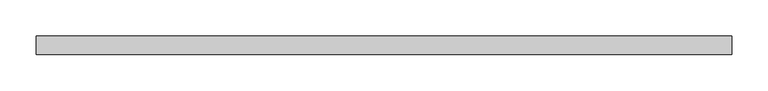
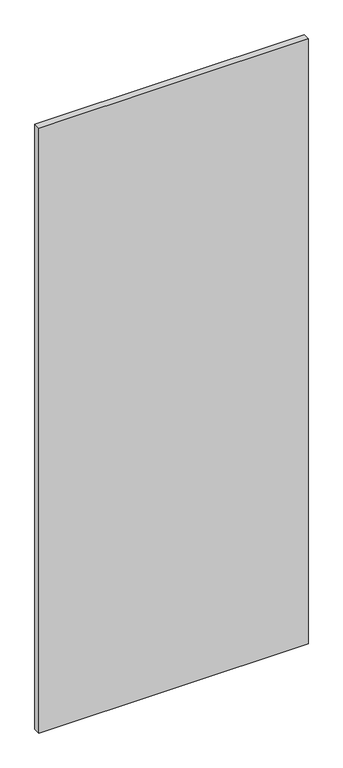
"""IFC4 building model written with IfcOpenShell, lengths in millimetres: plate geometry, 系统嵌板 : 玻璃."""

from ifc_helpers import new_model, si_unit, origin, origin_with_axes, place, context, project, spatial, polyline, outline, extrude, source, transform, mapped, element, save


def plate_9a42f018(model_context):
    return source(origin(), model_context, "Body", "SweptSolid", [
        extrude(outline(polyline([(477.5, -12.5), (-477.5, -12.5), (-477.5, 12.5), (477.5, 12.5), (477.5, -12.5)])), origin_with_axes(), (0.0, 0.0, 1.0), 2270.0),
    ])


if __name__ == "__main__":
    model = new_model("IFC4")
    model_context = context("Model", 3, world=origin())
    ifc_project = project(units=[si_unit("LENGTHUNIT", "METRE", prefix="MILLI")], contexts=[model_context])
    site = spatial("IfcSite", under=ifc_project)
    building = spatial("IfcBuilding", under=site)
    placement = place(None, origin())
    plate_shape = plate_9a42f018(model_context)
    element("IfcPlate", 1, ObjectType="系统嵌板 : 玻璃", at=placement, inside=building, context=model_context, shape_type="MappedRepresentation", body=[
        mapped(plate_shape, transform((0.0, 0.0, 0.0), x_axis=(1.0, 0.0, 0.0), y_axis=(0.0, 1.0, 0.0), z_axis=(0.0, 0.0, 1.0))),
    ])
    save(model, "model.ifc")
